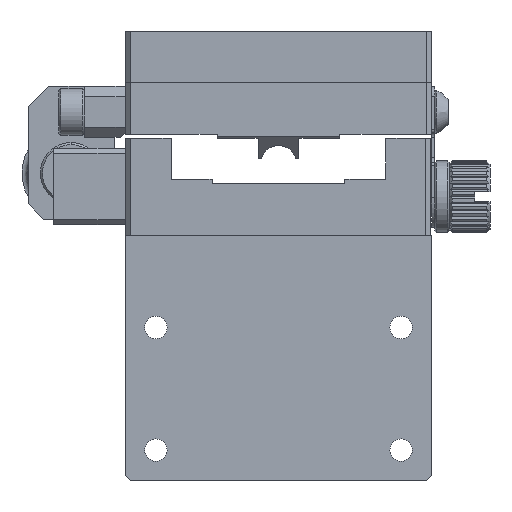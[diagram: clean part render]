
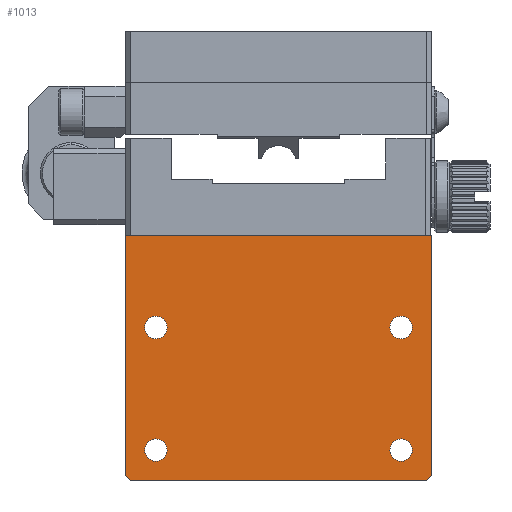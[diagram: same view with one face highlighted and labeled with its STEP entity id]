
A CAD part, front view. The second image highlights one B-rep face of the part: STEP entity #1013.
In plain terms, the highlighted planar face has unit normal (0, -1, 0).
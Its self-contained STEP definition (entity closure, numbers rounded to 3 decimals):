
#18=DIRECTION('',(0.,0.,-1.));
#19=VECTOR('',#18,23.5);
#20=CARTESIAN_POINT('',(-15.,0.,23.5));
#21=LINE('',#20,#19);
#74=DIRECTION('',(1.,0.,0.));
#75=VECTOR('',#74,30.);
#76=CARTESIAN_POINT('',(-15.,0.,0.));
#77=LINE('',#76,#75);
#230=CARTESIAN_POINT('',(-12.,0.,21.));
#231=DIRECTION('',(0.,1.,0.));
#232=DIRECTION('',(1.,0.,0.));
#233=AXIS2_PLACEMENT_3D('',#230,#231,#232);
#235=CARTESIAN_POINT('',(-12.,0.,21.));
#236=DIRECTION('',(0.,1.,0.));
#237=DIRECTION('',(-1.,0.,0.));
#238=AXIS2_PLACEMENT_3D('',#235,#236,#237);
#240=CARTESIAN_POINT('',(12.,0.,21.));
#241=DIRECTION('',(0.,1.,0.));
#242=DIRECTION('',(1.,0.,0.));
#243=AXIS2_PLACEMENT_3D('',#240,#241,#242);
#245=CARTESIAN_POINT('',(12.,0.,21.));
#246=DIRECTION('',(0.,1.,0.));
#247=DIRECTION('',(-1.,0.,0.));
#248=AXIS2_PLACEMENT_3D('',#245,#246,#247);
#250=CARTESIAN_POINT('',(-12.,0.,9.));
#251=DIRECTION('',(0.,1.,0.));
#252=DIRECTION('',(1.,0.,0.));
#253=AXIS2_PLACEMENT_3D('',#250,#251,#252);
#255=CARTESIAN_POINT('',(-12.,0.,9.));
#256=DIRECTION('',(0.,1.,0.));
#257=DIRECTION('',(-1.,0.,0.));
#258=AXIS2_PLACEMENT_3D('',#255,#256,#257);
#260=CARTESIAN_POINT('',(12.,0.,9.));
#261=DIRECTION('',(0.,1.,0.));
#262=DIRECTION('',(1.,0.,0.));
#263=AXIS2_PLACEMENT_3D('',#260,#261,#262);
#265=CARTESIAN_POINT('',(12.,0.,9.));
#266=DIRECTION('',(0.,1.,0.));
#267=DIRECTION('',(-1.,0.,0.));
#268=AXIS2_PLACEMENT_3D('',#265,#266,#267);
#270=DIRECTION('',(-0.707,0.,0.707));
#271=VECTOR('',#270,0.707);
#272=CARTESIAN_POINT('',(15.,0.,23.5));
#273=LINE('',#272,#271);
#274=DIRECTION('',(-0.707,0.,-0.707));
#275=VECTOR('',#274,0.707);
#276=CARTESIAN_POINT('',(-14.5,0.,24.));
#277=LINE('',#276,#275);
#278=DIRECTION('',(1.,0.,0.));
#279=VECTOR('',#278,29.);
#280=CARTESIAN_POINT('',(-14.5,0.,24.));
#281=LINE('',#280,#279);
#394=DIRECTION('',(0.,0.,-1.));
#395=VECTOR('',#394,23.5);
#396=CARTESIAN_POINT('',(15.,0.,23.5));
#397=LINE('',#396,#395);
#480=CARTESIAN_POINT('',(-15.,0.,0.));
#481=CARTESIAN_POINT('',(15.,0.,0.));
#482=VERTEX_POINT('',#480);
#483=VERTEX_POINT('',#481);
#492=CARTESIAN_POINT('',(-10.9,0.,21.));
#493=CARTESIAN_POINT('',(-13.1,0.,21.));
#494=VERTEX_POINT('',#492);
#495=VERTEX_POINT('',#493);
#496=CARTESIAN_POINT('',(13.1,0.,21.));
#497=CARTESIAN_POINT('',(10.9,0.,21.));
#498=VERTEX_POINT('',#496);
#499=VERTEX_POINT('',#497);
#552=CARTESIAN_POINT('',(15.,0.,23.5));
#553=CARTESIAN_POINT('',(14.5,0.,24.));
#554=VERTEX_POINT('',#552);
#555=VERTEX_POINT('',#553);
#566=CARTESIAN_POINT('',(-14.5,0.,24.));
#568=VERTEX_POINT('',#566);
#570=CARTESIAN_POINT('',(-15.,0.,23.5));
#571=VERTEX_POINT('',#570);
#580=CARTESIAN_POINT('',(-10.9,0.,9.));
#581=CARTESIAN_POINT('',(-13.1,0.,9.));
#582=VERTEX_POINT('',#580);
#583=VERTEX_POINT('',#581);
#584=CARTESIAN_POINT('',(13.1,0.,9.));
#585=CARTESIAN_POINT('',(10.9,0.,9.));
#586=VERTEX_POINT('',#584);
#587=VERTEX_POINT('',#585);
#973=CARTESIAN_POINT('',(-15.,0.,24.));
#974=DIRECTION('',(0.,-1.,0.));
#975=DIRECTION('',(0.,0.,-1.));
#976=AXIS2_PLACEMENT_3D('',#973,#974,#975);
#977=PLANE('',#976);
#978=ORIENTED_EDGE('',*,*,#961,.F.);
#980=ORIENTED_EDGE('',*,*,#979,.T.);
#981=ORIENTED_EDGE('',*,*,#668,.F.);
#982=ORIENTED_EDGE('',*,*,#633,.F.);
#984=ORIENTED_EDGE('',*,*,#983,.F.);
#986=ORIENTED_EDGE('',*,*,#985,.T.);
#987=EDGE_LOOP('',(#978,#980,#981,#982,#984,#986));
#988=FACE_OUTER_BOUND('',#987,.F.);
#990=ORIENTED_EDGE('',*,*,#989,.F.);
#992=ORIENTED_EDGE('',*,*,#991,.F.);
#993=EDGE_LOOP('',(#990,#992));
#994=FACE_BOUND('',#993,.F.);
#996=ORIENTED_EDGE('',*,*,#995,.F.);
#998=ORIENTED_EDGE('',*,*,#997,.F.);
#999=EDGE_LOOP('',(#996,#998));
#1000=FACE_BOUND('',#999,.F.);
#1002=ORIENTED_EDGE('',*,*,#1001,.F.);
#1004=ORIENTED_EDGE('',*,*,#1003,.F.);
#1005=EDGE_LOOP('',(#1002,#1004));
#1006=FACE_BOUND('',#1005,.F.);
#1008=ORIENTED_EDGE('',*,*,#1007,.F.);
#1010=ORIENTED_EDGE('',*,*,#1009,.F.);
#1011=EDGE_LOOP('',(#1008,#1010));
#1012=FACE_BOUND('',#1011,.F.);
#1013=ADVANCED_FACE('',(#988,#994,#1000,#1006,#1012),#977,.T.);
#234=CIRCLE('',#233,1.1);
#239=CIRCLE('',#238,1.1);
#244=CIRCLE('',#243,1.1);
#249=CIRCLE('',#248,1.1);
#254=CIRCLE('',#253,1.1);
#259=CIRCLE('',#258,1.1);
#264=CIRCLE('',#263,1.1);
#269=CIRCLE('',#268,1.1);
#633=EDGE_CURVE('',#571,#482,#21,.T.);
#668=EDGE_CURVE('',#482,#483,#77,.T.);
#961=EDGE_CURVE('',#554,#555,#273,.T.);
#979=EDGE_CURVE('',#554,#483,#397,.T.);
#983=EDGE_CURVE('',#568,#571,#277,.T.);
#985=EDGE_CURVE('',#568,#555,#281,.T.);
#989=EDGE_CURVE('',#498,#499,#244,.T.);
#991=EDGE_CURVE('',#499,#498,#249,.T.);
#995=EDGE_CURVE('',#582,#583,#254,.T.);
#997=EDGE_CURVE('',#583,#582,#259,.T.);
#1001=EDGE_CURVE('',#586,#587,#264,.T.);
#1003=EDGE_CURVE('',#587,#586,#269,.T.);
#1007=EDGE_CURVE('',#494,#495,#234,.T.);
#1009=EDGE_CURVE('',#495,#494,#239,.T.);
